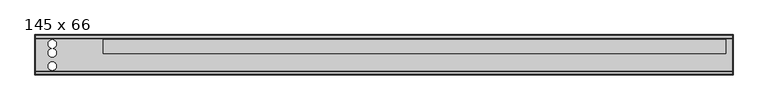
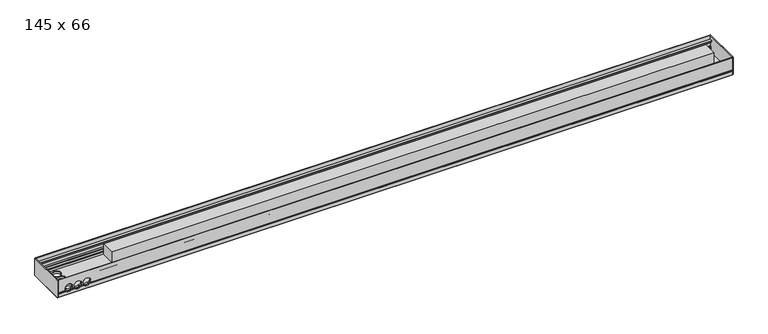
"""IFC4 building model written with IfcOpenShell, lengths in millimetres: proxy geometry, Mohlenhof_Внутрипольный конвектор_QSKM : 145 x 66."""

from ifc_helpers import new_model, si_unit, point, frame, frame_2d, origin, place, context, project, spatial, polyline, circle_curve, ellipse_curve, trimmed, segment, composite_curve, outline, extrude, source, transform, mapped, element, save
from ifc_brep_helpers import plane_surface, revolved_surface, advanced_brep


def proxy_145_x_66_30bb2a4e(model_context):
    return source(origin(), model_context, "Body", "SolidModel", [
        advanced_brep(
        [(1248.0, -245.0, -48.5473602), (1248.0, -243.5, -49.2468216), (1248.0, -242.5, -49.2468216), (1248.0, -242.5, -46.0008038), (1248.0, -240.0, -46.0008038), (1248.0, -240.0, -56.5008038), (1248.0, -242.5, -56.5008038), (1248.0, -242.5, -53.2468216), (1248.0, -243.5, -53.2468216), (1248.0, -245.0, -53.9462831), (1248.0, -245.0, -66.5), (1248.0, -241.0, -66.5), (1248.0, -241.0, -65.2), (1248.0, -243.0, -65.2), (1248.0, -243.0, -62.5), (1248.0, -232.0, -62.5), (1248.0, -232.0, -54.9172677), (1248.0, -233.4172677, -53.5), (1248.0, -237.0, -53.5), (1248.0, -237.0, -45.91), (1248.0, -239.0, -43.91), (1248.0, -239.0, -39.5), (1248.0, -240.0, -39.5), (1248.0, -240.0, -43.5), (1248.0, -242.4956439, -43.5), (1248.0, -242.4956439, -23.0), (1248.0, -240.0, -23.0), (1248.0, -240.0, -27.0), (1248.0, -239.0, -27.0), (1248.0, -239.0, -17.0), (1248.0, -233.3956439, -17.0), (1248.0, -233.3956439, -15.0), (1248.0, -243.4, -15.0), (1248.0, -243.4, 0.0), (1248.0, -245.0, 0.0), (-1248.0, -245.0, -48.5473602), (-1248.0, -245.0, 0.0), (-1248.0, -243.4, 0.0), (-1248.0, -243.4, -15.0), (-1248.0, -233.3956439, -15.0), (-1248.0, -233.3956439, -17.0), (-1248.0, -239.0, -17.0), (-1248.0, -239.0, -27.0), (-1248.0, -240.0, -27.0), (-1248.0, -240.0, -23.0), (-1248.0, -242.4956439, -23.0), (-1248.0, -242.4956439, -43.5), (-1248.0, -240.0, -43.5), (-1248.0, -240.0, -39.5), (-1248.0, -239.0, -39.5), (-1248.0, -239.0, -43.91), (-1248.0, -237.0, -45.91), (-1248.0, -237.0, -53.5), (-1248.0, -233.4172677, -53.5), (-1248.0, -232.0, -54.9172677), (-1248.0, -232.0, -62.5), (-1248.0, -243.0, -62.5), (-1248.0, -243.0, -65.2), (-1248.0, -241.0, -65.2), (-1248.0, -241.0, -66.5), (-1248.0, -245.0, -66.5), (-1248.0, -245.0, -53.9462831), (-1248.0, -243.5, -53.2468216), (-1248.0, -242.5, -53.2468216), (-1248.0, -242.5, -56.5008038), (-1248.0, -240.0, -56.5008038), (-1248.0, -240.0, -46.0008038), (-1248.0, -242.5, -46.0008038), (-1248.0, -242.5, -49.2468216), (-1248.0, -243.5, -49.2468216), (-1128.7585985, -245.0, -48.5473602), (-1129.155283, -243.5, -49.2468216), (-1220.844717, -243.5, -49.2468216), (-1221.2414015, -245.0, -48.5473602), (-1188.2414015, -245.0, -48.5473602), (-1194.7585985, -245.0, -48.5473602), (-1195.155283, -243.5, -49.2468216), (-1187.844717, -243.5, -49.2468216), (-1155.2414015, -245.0, -48.5473602), (-1161.7585985, -245.0, -48.5473602), (-1162.155283, -243.5, -49.2468216), (-1154.844717, -243.5, -49.2468216), (-1129.155283, -242.5, -49.2468216), (-1220.844717, -242.5, -49.2468216), (-1195.155283, -242.5, -49.2468216), (-1187.844717, -242.5, -49.2468216), (-1162.155283, -242.5, -49.2468216), (-1154.844717, -242.5, -49.2468216), (-1127.6911648, -242.5, -46.0008038), (-1222.3088352, -242.5, -46.0008038), (-1193.6911648, -242.5, -46.0008038), (-1189.3088352, -242.5, -46.0008038), (-1160.6911648, -242.5, -46.0008038), (-1156.3088352, -242.5, -46.0008038), (-1127.6911648, -240.0, -46.0008038), (-1222.3088352, -240.0, -46.0008038), (-1193.6911648, -240.0, -46.0008038), (-1189.3088352, -240.0, -46.0008038), (-1160.6911648, -240.0, -46.0008038), (-1156.3088352, -240.0, -46.0008038), (-1217.328032, -242.5, -53.2468216), (-1198.671968, -242.5, -53.2468216), (-1184.328032, -242.5, -53.2468216), (-1165.671968, -242.5, -53.2468216), (-1151.328032, -242.5, -53.2468216), (-1132.671968, -242.5, -53.2468216), (-1132.671968, -243.5, -53.2468216), (-1217.328032, -243.5, -53.2468216), (-1198.671968, -243.5, -53.2468216), (-1184.328032, -243.5, -53.2468216), (-1165.671968, -243.5, -53.2468216), (-1151.328032, -243.5, -53.2468216), (-1133.6280208, -245.0, -53.9462831), (-1216.3719792, -245.0, -53.9462831), (-1199.6280208, -245.0, -53.9462831), (-1183.3719792, -245.0, -53.9462831), (-1166.6280208, -245.0, -53.9462831), (-1150.3719792, -245.0, -53.9462831), (-1214.7064841, -232.0, -54.9172677), (-1201.2935159, -232.0, -54.9172677), (-1181.7064841, -232.0, -54.9172677), (-1168.2935159, -232.0, -54.9172677), (-1148.7064841, -232.0, -54.9172677), (-1135.2935159, -232.0, -54.9172677), (-1133.0, -233.4172677, -53.5), (-1217.0, -233.4172677, -53.5), (-1199.0, -233.4172677, -53.5), (-1184.0, -233.4172677, -53.5), (-1166.0, -233.4172677, -53.5), (-1151.0, -233.4172677, -53.5), (-1133.0, -237.0, -53.5), (-1217.0, -237.0, -53.5), (-1199.0, -237.0, -53.5), (-1184.0, -237.0, -53.5), (-1166.0, -237.0, -53.5), (-1151.0, -237.0, -53.5), (-1127.6629187, -237.0, -45.91), (-1222.3370813, -237.0, -45.91), (-1193.6629187, -237.0, -45.91), (-1189.3370813, -237.0, -45.91), (-1160.6629187, -237.0, -45.91), (-1156.3370813, -237.0, -45.91), (-1127.1948691, -239.0, -43.91), (-1222.8051309, -239.0, -43.91), (-1193.1948691, -239.0, -43.91), (-1189.8051309, -239.0, -43.91), (-1160.1948691, -239.0, -43.91), (-1156.8051309, -239.0, -43.91), (-1127.0, -239.0, -41.5), (-1127.1339313, -239.0, -39.5), (-1222.8660687, -239.0, -39.5), (-1223.0, -239.0, -41.5), (-1193.0, -239.0, -41.5), (-1193.1339313, -239.0, -39.5), (-1189.8660687, -239.0, -39.5), (-1190.0, -239.0, -41.5), (-1160.0, -239.0, -41.5), (-1160.1339313, -239.0, -39.5), (-1156.8660687, -239.0, -39.5), (-1157.0, -239.0, -41.5), (-1127.1339313, -240.0, -39.5), (-1222.8660687, -240.0, -39.5), (-1193.1339313, -240.0, -39.5), (-1189.8660687, -240.0, -39.5), (-1160.1339313, -240.0, -39.5), (-1156.8660687, -240.0, -39.5), (-1127.0, -240.0, -41.5), (-1127.1339313, -240.0, -43.5), (-1222.8660687, -240.0, -43.5), (-1223.0, -240.0, -41.5), (-1193.0, -240.0, -41.5), (-1193.1339313, -240.0, -43.5), (-1189.8660687, -240.0, -43.5), (-1190.0, -240.0, -41.5), (-1160.0, -240.0, -41.5), (-1160.1339313, -240.0, -43.5), (-1156.8660687, -240.0, -43.5), (-1157.0, -240.0, -41.5), (-1127.1339313, -242.4956439, -43.5), (-1222.8660687, -242.4956439, -43.5), (-1193.1339313, -242.4956439, -43.5), (-1189.8660687, -242.4956439, -43.5), (-1160.1339313, -242.4956439, -43.5), (-1156.8660687, -242.4956439, -43.5), (-1127.0, -242.4956439, -41.5), (-1157.0, -242.4956439, -41.5), (-1160.0, -242.4956439, -41.5), (-1190.0, -242.4956439, -41.5), (-1193.0, -242.4956439, -41.5), (-1223.0, -242.4956439, -41.5), (-1211.8405729, -240.0, -27.0), (-1204.1594271, -240.0, -27.0), (-1178.8405729, -240.0, -27.0), (-1171.1594271, -240.0, -27.0), (-1145.8405729, -240.0, -27.0), (-1138.1594271, -240.0, -27.0), (-1138.1594271, -239.0, -27.0), (-1211.8405729, -239.0, -27.0), (-1204.1594271, -239.0, -27.0), (-1178.8405729, -239.0, -27.0), (-1171.1594271, -239.0, -27.0), (-1145.8405729, -239.0, -27.0), (-1223.0, -245.0, -41.5), (-1193.0, -245.0, -41.5), (-1190.0, -245.0, -41.5), (-1160.0, -245.0, -41.5), (-1157.0, -245.0, -41.5), (-1127.0, -245.0, -41.5)],
        [
            (0, 1),
            (1, 2),
            (2, 3),
            (3, 4),
            (4, 5),
            (5, 6),
            (6, 7),
            (7, 8),
            (8, 9),
            (9, 10),
            (10, 11),
            (11, 12),
            (12, 13),
            (13, 14),
            (14, 15),
            (15, 16),
            (16, 17),
            (17, 18),
            (18, 19),
            (19, 20),
            (20, 21),
            (21, 22),
            (22, 23),
            (23, 24),
            (24, 25),
            (25, 26),
            (26, 27),
            (27, 28),
            (28, 29),
            (29, 30),
            (30, 31),
            (31, 32),
            (32, 33),
            (33, 34),
            (34, 0),
            (35, 36),
            (36, 37),
            (37, 38),
            (38, 39),
            (39, 40),
            (40, 41),
            (41, 42),
            (42, 43),
            (43, 44),
            (44, 45),
            (45, 46),
            (46, 47),
            (47, 48),
            (48, 49),
            (49, 50),
            (50, 51),
            (51, 52),
            (52, 53),
            (53, 54),
            (54, 55),
            (55, 56),
            (56, 57),
            (57, 58),
            (58, 59),
            (59, 60),
            (60, 61),
            (61, 62),
            (62, 63),
            (63, 64),
            (64, 65),
            (65, 66),
            (66, 67),
            (67, 68),
            (68, 69),
            (69, 35),
            (0, 70),
            (70, 71, ellipse_curve(frame((-1142.0, -260.1131126, -41.5), z_axis=(0.0, 0.42261826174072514, 0.9063077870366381), x_axis=(0.0, -0.9063077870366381, 0.42261826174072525)), 35.4930237, 15.0)),
            (71, 1),
            (69, 72),
            (72, 73, ellipse_curve(frame((-1208.0, -260.1131126, -41.5), z_axis=(0.0, 0.42261826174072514, 0.9063077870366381), x_axis=(0.0, -0.9063077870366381, 0.42261826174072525)), 35.4930237, 15.0)),
            (73, 35),
            (74, 75),
            (75, 76, ellipse_curve(frame((-1208.0, -260.1131126, -41.5), z_axis=(0.0, 0.42261826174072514, 0.9063077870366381), x_axis=(0.0, -0.9063077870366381, 0.42261826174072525)), 35.4930237, 15.0)),
            (76, 77),
            (77, 74, ellipse_curve(frame((-1175.0, -260.1131126, -41.5), z_axis=(0.0, 0.42261826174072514, 0.9063077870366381), x_axis=(0.0, -0.9063077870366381, 0.42261826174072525)), 35.4930237, 15.0)),
            (78, 79),
            (79, 80, ellipse_curve(frame((-1175.0, -260.1131126, -41.5), z_axis=(0.0, 0.42261826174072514, 0.9063077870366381), x_axis=(0.0, -0.9063077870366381, 0.42261826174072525)), 35.4930237, 15.0)),
            (80, 81),
            (81, 78, ellipse_curve(frame((-1142.0, -260.1131126, -41.5), z_axis=(0.0, 0.42261826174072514, 0.9063077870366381), x_axis=(0.0, -0.9063077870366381, 0.42261826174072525)), 35.4930237, 15.0)),
            (71, 82),
            (82, 2),
            (68, 83),
            (83, 72),
            (76, 84),
            (84, 85),
            (85, 77),
            (80, 86),
            (86, 87),
            (87, 81),
            (82, 88, circle_curve(frame((-1142.0, -242.5, -41.5), z_axis=(0.0, -1.0, 0.0), x_axis=(1.0, 0.0, 0.0)), 15.0)),
            (88, 3),
            (67, 89),
            (89, 83, circle_curve(frame((-1208.0, -242.5, -41.5), z_axis=(0.0, -1.0, 0.0), x_axis=(1.0, 0.0, 0.0)), 15.0)),
            (84, 90, circle_curve(frame((-1208.0, -242.5, -41.5), z_axis=(0.0, -1.0, 0.0), x_axis=(1.0, 0.0, 0.0)), 15.0)),
            (90, 91),
            (91, 85, circle_curve(frame((-1175.0, -242.5, -41.5), z_axis=(0.0, -1.0, 0.0), x_axis=(1.0, 0.0, 0.0)), 15.0)),
            (86, 92, circle_curve(frame((-1175.0, -242.5, -41.5), z_axis=(0.0, -1.0, 0.0), x_axis=(1.0, 0.0, 0.0)), 15.0)),
            (92, 93),
            (93, 87, circle_curve(frame((-1142.0, -242.5, -41.5), z_axis=(0.0, -1.0, 0.0), x_axis=(1.0, 0.0, 0.0)), 15.0)),
            (88, 94),
            (94, 4),
            (66, 95),
            (95, 89),
            (90, 96),
            (96, 97),
            (97, 91),
            (92, 98),
            (98, 99),
            (99, 93),
            (94, 99, circle_curve(frame((-1142.0, -240.0, -41.5), z_axis=(0.0, 1.0, 0.0), x_axis=(1.0, 0.0, 0.0)), 15.0)),
            (98, 97, circle_curve(frame((-1175.0, -240.0, -41.5), z_axis=(0.0, 1.0, 0.0), x_axis=(1.0, 0.0, 0.0)), 15.0)),
            (96, 95, circle_curve(frame((-1208.0, -240.0, -41.5), z_axis=(0.0, 1.0, 0.0), x_axis=(1.0, 0.0, 0.0)), 15.0)),
            (65, 5),
            (64, 6),
            (63, 100),
            (100, 101, circle_curve(frame((-1208.0, -242.5, -41.5), z_axis=(0.0, -1.0, 0.0), x_axis=(1.0, 0.0, 0.0)), 15.0)),
            (101, 102),
            (102, 103, circle_curve(frame((-1175.0, -242.5, -41.5), z_axis=(0.0, -1.0, 0.0), x_axis=(1.0, 0.0, 0.0)), 15.0)),
            (103, 104),
            (104, 105, circle_curve(frame((-1142.0, -242.5, -41.5), z_axis=(0.0, -1.0, 0.0), x_axis=(1.0, 0.0, 0.0)), 15.0)),
            (105, 7),
            (105, 106),
            (106, 8),
            (62, 107),
            (107, 100),
            (101, 108),
            (108, 109),
            (109, 102),
            (103, 110),
            (110, 111),
            (111, 104),
            (106, 112, ellipse_curve(frame((-1142.0, -218.3088597, -41.5), z_axis=(0.0, 0.42261826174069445, -0.9063077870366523), x_axis=(0.0, -0.9063077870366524, -0.42261826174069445)), 35.4930237, 15.0)),
            (112, 9),
            (61, 113),
            (113, 107, ellipse_curve(frame((-1208.0, -218.3088597, -41.5), z_axis=(0.0, 0.42261826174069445, -0.9063077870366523), x_axis=(0.0, -0.9063077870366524, -0.42261826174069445)), 35.4930237, 15.0)),
            (108, 114, ellipse_curve(frame((-1208.0, -218.3088597, -41.5), z_axis=(0.0, 0.42261826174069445, -0.9063077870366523), x_axis=(0.0, -0.9063077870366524, -0.42261826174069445)), 35.4930237, 15.0)),
            (114, 115),
            (115, 109, ellipse_curve(frame((-1175.0, -218.3088597, -41.5), z_axis=(0.0, 0.42261826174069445, -0.9063077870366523), x_axis=(0.0, -0.9063077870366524, -0.42261826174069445)), 35.4930237, 15.0)),
            (110, 116, ellipse_curve(frame((-1175.0, -218.3088597, -41.5), z_axis=(0.0, 0.42261826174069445, -0.9063077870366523), x_axis=(0.0, -0.9063077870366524, -0.42261826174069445)), 35.4930237, 15.0)),
            (116, 117),
            (117, 111, ellipse_curve(frame((-1142.0, -218.3088597, -41.5), z_axis=(0.0, 0.42261826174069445, -0.9063077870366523), x_axis=(0.0, -0.9063077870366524, -0.42261826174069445)), 35.4930237, 15.0)),
            (112, 117, circle_curve(frame((-1142.0, -245.0, -41.5), z_axis=(0.0, 1.0, 0.0), x_axis=(1.0, 0.0, 0.0)), 15.0)),
            (116, 115, circle_curve(frame((-1175.0, -245.0, -41.5), z_axis=(0.0, 1.0, 0.0), x_axis=(1.0, 0.0, 0.0)), 15.0)),
            (114, 113, circle_curve(frame((-1208.0, -245.0, -41.5), z_axis=(0.0, 1.0, 0.0), x_axis=(1.0, 0.0, 0.0)), 15.0)),
            (60, 10),
            (59, 11),
            (58, 12),
            (57, 13),
            (56, 14),
            (55, 15),
            (54, 118),
            (118, 119, circle_curve(frame((-1208.0, -232.0, -41.5), z_axis=(0.0, -1.0, 0.0), x_axis=(1.0, 0.0, 0.0)), 15.0)),
            (119, 120),
            (120, 121, circle_curve(frame((-1175.0, -232.0, -41.5), z_axis=(0.0, -1.0, 0.0), x_axis=(1.0, 0.0, 0.0)), 15.0)),
            (121, 122),
            (122, 123, circle_curve(frame((-1142.0, -232.0, -41.5), z_axis=(0.0, -1.0, 0.0), x_axis=(1.0, 0.0, 0.0)), 15.0)),
            (123, 16),
            (123, 124, ellipse_curve(frame((-1142.0, -245.4172677, -41.5), z_axis=(0.0, -0.7071067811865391, -0.707106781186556), x_axis=(0.0, -0.7071067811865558, 0.7071067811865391)), 21.2132034, 15.0)),
            (124, 17),
            (53, 125),
            (125, 118, ellipse_curve(frame((-1208.0, -245.4172677, -41.5), z_axis=(0.0, -0.7071067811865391, -0.707106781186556), x_axis=(0.0, -0.7071067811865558, 0.7071067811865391)), 21.2132034, 15.0)),
            (119, 126, ellipse_curve(frame((-1208.0, -245.4172677, -41.5), z_axis=(0.0, -0.7071067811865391, -0.707106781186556), x_axis=(0.0, -0.7071067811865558, 0.7071067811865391)), 21.2132034, 15.0)),
            (126, 127),
            (127, 120, ellipse_curve(frame((-1175.0, -245.4172677, -41.5), z_axis=(0.0, -0.7071067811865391, -0.707106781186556), x_axis=(0.0, -0.7071067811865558, 0.7071067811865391)), 21.2132034, 15.0)),
            (121, 128, ellipse_curve(frame((-1175.0, -245.4172677, -41.5), z_axis=(0.0, -0.7071067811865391, -0.707106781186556), x_axis=(0.0, -0.7071067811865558, 0.7071067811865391)), 21.2132034, 15.0)),
            (128, 129),
            (129, 122, ellipse_curve(frame((-1142.0, -245.4172677, -41.5), z_axis=(0.0, -0.7071067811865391, -0.707106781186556), x_axis=(0.0, -0.7071067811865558, 0.7071067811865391)), 21.2132034, 15.0)),
            (124, 130),
            (130, 18),
            (52, 131),
            (131, 125),
            (126, 132),
            (132, 133),
            (133, 127),
            (128, 134),
            (134, 135),
            (135, 129),
            (130, 136, circle_curve(frame((-1142.0, -237.0, -41.5), z_axis=(0.0, -1.0, 0.0), x_axis=(1.0, 0.0, 0.0)), 15.0)),
            (136, 19),
            (51, 137),
            (137, 131, circle_curve(frame((-1208.0, -237.0, -41.5), z_axis=(0.0, -1.0, 0.0), x_axis=(1.0, 0.0, 0.0)), 15.0)),
            (132, 138, circle_curve(frame((-1208.0, -237.0, -41.5), z_axis=(0.0, -1.0, 0.0), x_axis=(1.0, 0.0, 0.0)), 15.0)),
            (138, 139),
            (139, 133, circle_curve(frame((-1175.0, -237.0, -41.5), z_axis=(0.0, -1.0, 0.0), x_axis=(1.0, 0.0, 0.0)), 15.0)),
            (134, 140, circle_curve(frame((-1175.0, -237.0, -41.5), z_axis=(0.0, -1.0, 0.0), x_axis=(1.0, 0.0, 0.0)), 15.0)),
            (140, 141),
            (141, 135, circle_curve(frame((-1142.0, -237.0, -41.5), z_axis=(0.0, -1.0, 0.0), x_axis=(1.0, 0.0, 0.0)), 15.0)),
            (136, 142, ellipse_curve(frame((-1142.0, -241.41, -41.5), z_axis=(0.0, -0.7071067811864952, -0.7071067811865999), x_axis=(0.0, -0.7071067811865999, 0.7071067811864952)), 21.2132034, 15.0)),
            (142, 20),
            (50, 143),
            (143, 137, ellipse_curve(frame((-1208.0, -241.41, -41.5), z_axis=(0.0, -0.7071067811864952, -0.7071067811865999), x_axis=(0.0, -0.7071067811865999, 0.7071067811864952)), 21.2132034, 15.0)),
            (138, 144, ellipse_curve(frame((-1208.0, -241.41, -41.5), z_axis=(0.0, -0.7071067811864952, -0.7071067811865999), x_axis=(0.0, -0.7071067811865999, 0.7071067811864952)), 21.2132034, 15.0)),
            (144, 145),
            (145, 139, ellipse_curve(frame((-1175.0, -241.41, -41.5), z_axis=(0.0, -0.7071067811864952, -0.7071067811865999), x_axis=(0.0, -0.7071067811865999, 0.7071067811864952)), 21.2132034, 15.0)),
            (140, 146, ellipse_curve(frame((-1175.0, -241.41, -41.5), z_axis=(0.0, -0.7071067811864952, -0.7071067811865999), x_axis=(0.0, -0.7071067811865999, 0.7071067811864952)), 21.2132034, 15.0)),
            (146, 147),
            (147, 141, ellipse_curve(frame((-1142.0, -241.41, -41.5), z_axis=(0.0, -0.7071067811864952, -0.7071067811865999), x_axis=(0.0, -0.7071067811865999, 0.7071067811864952)), 21.2132034, 15.0)),
            (142, 148, circle_curve(frame((-1142.0, -239.0, -41.5), z_axis=(0.0, -1.0, 0.0), x_axis=(1.0, 0.0, 0.0)), 15.0)),
            (148, 149, circle_curve(frame((-1142.0, -239.0, -41.5), z_axis=(0.0, -1.0, 0.0), x_axis=(1.0, 0.0, 0.0)), 15.0)),
            (149, 21),
            (49, 150),
            (150, 151, circle_curve(frame((-1208.0, -239.0, -41.5), z_axis=(0.0, -1.0, 0.0), x_axis=(1.0, 0.0, 0.0)), 15.0)),
            (151, 143, circle_curve(frame((-1208.0, -239.0, -41.5), z_axis=(0.0, -1.0, 0.0), x_axis=(1.0, 0.0, 0.0)), 15.0)),
            (144, 152, circle_curve(frame((-1208.0, -239.0, -41.5), z_axis=(0.0, -1.0, 0.0), x_axis=(1.0, 0.0, 0.0)), 15.0)),
            (152, 153, circle_curve(frame((-1208.0, -239.0, -41.5), z_axis=(0.0, -1.0, 0.0), x_axis=(1.0, 0.0, 0.0)), 15.0)),
            (153, 154),
            (154, 155, circle_curve(frame((-1175.0, -239.0, -41.5), z_axis=(0.0, -1.0, 0.0), x_axis=(1.0, 0.0, 0.0)), 15.0)),
            (155, 145, circle_curve(frame((-1175.0, -239.0, -41.5), z_axis=(0.0, -1.0, 0.0), x_axis=(1.0, 0.0, 0.0)), 15.0)),
            (146, 156, circle_curve(frame((-1175.0, -239.0, -41.5), z_axis=(0.0, -1.0, 0.0), x_axis=(1.0, 0.0, 0.0)), 15.0)),
            (156, 157, circle_curve(frame((-1175.0, -239.0, -41.5), z_axis=(0.0, -1.0, 0.0), x_axis=(1.0, 0.0, 0.0)), 15.0)),
            (157, 158),
            (158, 159, circle_curve(frame((-1142.0, -239.0, -41.5), z_axis=(0.0, -1.0, 0.0), x_axis=(1.0, 0.0, 0.0)), 15.0)),
            (159, 147, circle_curve(frame((-1142.0, -239.0, -41.5), z_axis=(0.0, -1.0, 0.0), x_axis=(1.0, 0.0, 0.0)), 15.0)),
            (149, 160),
            (160, 22),
            (48, 161),
            (161, 150),
            (153, 162),
            (162, 163),
            (163, 154),
            (157, 164),
            (164, 165),
            (165, 158),
            (160, 166, circle_curve(frame((-1142.0, -240.0, -41.5), z_axis=(0.0, 1.0, 0.0), x_axis=(1.0, 0.0, 0.0)), 15.0)),
            (166, 167, circle_curve(frame((-1142.0, -240.0, -41.5), z_axis=(0.0, 1.0, 0.0), x_axis=(1.0, 0.0, 0.0)), 15.0)),
            (167, 23),
            (47, 168),
            (168, 169, circle_curve(frame((-1208.0, -240.0, -41.5), z_axis=(0.0, 1.0, 0.0), x_axis=(1.0, 0.0, 0.0)), 15.0)),
            (169, 161, circle_curve(frame((-1208.0, -240.0, -41.5), z_axis=(0.0, 1.0, 0.0), x_axis=(1.0, 0.0, 0.0)), 15.0)),
            (162, 170, circle_curve(frame((-1208.0, -240.0, -41.5), z_axis=(0.0, 1.0, 0.0), x_axis=(1.0, 0.0, 0.0)), 15.0)),
            (170, 171, circle_curve(frame((-1208.0, -240.0, -41.5), z_axis=(0.0, 1.0, 0.0), x_axis=(1.0, 0.0, 0.0)), 15.0)),
            (171, 172),
            (172, 173, circle_curve(frame((-1175.0, -240.0, -41.5), z_axis=(0.0, 1.0, 0.0), x_axis=(1.0, 0.0, 0.0)), 15.0)),
            (173, 163, circle_curve(frame((-1175.0, -240.0, -41.5), z_axis=(0.0, 1.0, 0.0), x_axis=(1.0, 0.0, 0.0)), 15.0)),
            (164, 174, circle_curve(frame((-1175.0, -240.0, -41.5), z_axis=(0.0, 1.0, 0.0), x_axis=(1.0, 0.0, 0.0)), 15.0)),
            (174, 175, circle_curve(frame((-1175.0, -240.0, -41.5), z_axis=(0.0, 1.0, 0.0), x_axis=(1.0, 0.0, 0.0)), 15.0)),
            (175, 176),
            (176, 177, circle_curve(frame((-1142.0, -240.0, -41.5), z_axis=(0.0, 1.0, 0.0), x_axis=(1.0, 0.0, 0.0)), 15.0)),
            (177, 165, circle_curve(frame((-1142.0, -240.0, -41.5), z_axis=(0.0, 1.0, 0.0), x_axis=(1.0, 0.0, 0.0)), 15.0)),
            (167, 178),
            (178, 24),
            (46, 179),
            (179, 168),
            (171, 180),
            (180, 181),
            (181, 172),
            (175, 182),
            (182, 183),
            (183, 176),
            (178, 184, circle_curve(frame((-1142.0, -242.4956439, -41.5), z_axis=(0.0, -1.0, 0.0), x_axis=(1.0, 0.0, 0.0)), 15.0)),
            (184, 185, circle_curve(frame((-1142.0, -242.4956439, -41.5), z_axis=(0.0, -1.0, 0.0), x_axis=(1.0, 0.0, 0.0)), 15.0)),
            (185, 183, circle_curve(frame((-1142.0, -242.4956439, -41.5), z_axis=(0.0, -1.0, 0.0), x_axis=(1.0, 0.0, 0.0)), 15.0)),
            (182, 186, circle_curve(frame((-1175.0, -242.4956439, -41.5), z_axis=(0.0, -1.0, 0.0), x_axis=(1.0, 0.0, 0.0)), 15.0)),
            (186, 187, circle_curve(frame((-1175.0, -242.4956439, -41.5), z_axis=(0.0, -1.0, 0.0), x_axis=(1.0, 0.0, 0.0)), 15.0)),
            (187, 181, circle_curve(frame((-1175.0, -242.4956439, -41.5), z_axis=(0.0, -1.0, 0.0), x_axis=(1.0, 0.0, 0.0)), 15.0)),
            (180, 188, circle_curve(frame((-1208.0, -242.4956439, -41.5), z_axis=(0.0, -1.0, 0.0), x_axis=(1.0, 0.0, 0.0)), 15.0)),
            (188, 189, circle_curve(frame((-1208.0, -242.4956439, -41.5), z_axis=(0.0, -1.0, 0.0), x_axis=(1.0, 0.0, 0.0)), 15.0)),
            (189, 179, circle_curve(frame((-1208.0, -242.4956439, -41.5), z_axis=(0.0, -1.0, 0.0), x_axis=(1.0, 0.0, 0.0)), 15.0)),
            (45, 25),
            (44, 26),
            (43, 190),
            (190, 191, circle_curve(frame((-1208.0, -240.0, -41.5), z_axis=(0.0, 1.0, 0.0), x_axis=(1.0, 0.0, 0.0)), 15.0)),
            (191, 192),
            (192, 193, circle_curve(frame((-1175.0, -240.0, -41.5), z_axis=(0.0, 1.0, 0.0), x_axis=(1.0, 0.0, 0.0)), 15.0)),
            (193, 194),
            (194, 195, circle_curve(frame((-1142.0, -240.0, -41.5), z_axis=(0.0, 1.0, 0.0), x_axis=(1.0, 0.0, 0.0)), 15.0)),
            (195, 27),
            (195, 196),
            (196, 28),
            (42, 197),
            (197, 190),
            (191, 198),
            (198, 199),
            (199, 192),
            (193, 200),
            (200, 201),
            (201, 194),
            (196, 201, circle_curve(frame((-1142.0, -239.0, -41.5), z_axis=(0.0, -1.0, 0.0), x_axis=(1.0, 0.0, 0.0)), 15.0)),
            (200, 199, circle_curve(frame((-1175.0, -239.0, -41.5), z_axis=(0.0, -1.0, 0.0), x_axis=(1.0, 0.0, 0.0)), 15.0)),
            (198, 197, circle_curve(frame((-1208.0, -239.0, -41.5), z_axis=(0.0, -1.0, 0.0), x_axis=(1.0, 0.0, 0.0)), 15.0)),
            (41, 29),
            (40, 30),
            (39, 31),
            (38, 32),
            (37, 33),
            (36, 34),
            (73, 202, circle_curve(frame((-1208.0, -245.0, -41.5), z_axis=(0.0, 1.0, 0.0), x_axis=(1.0, 0.0, 0.0)), 15.0)),
            (202, 203, circle_curve(frame((-1208.0, -245.0, -41.5), z_axis=(0.0, 1.0, 0.0), x_axis=(1.0, 0.0, 0.0)), 15.0)),
            (203, 75, circle_curve(frame((-1208.0, -245.0, -41.5), z_axis=(0.0, 1.0, 0.0), x_axis=(1.0, 0.0, 0.0)), 15.0)),
            (74, 204, circle_curve(frame((-1175.0, -245.0, -41.5), z_axis=(0.0, 1.0, 0.0), x_axis=(1.0, 0.0, 0.0)), 15.0)),
            (204, 205, circle_curve(frame((-1175.0, -245.0, -41.5), z_axis=(0.0, 1.0, 0.0), x_axis=(1.0, 0.0, 0.0)), 15.0)),
            (205, 79, circle_curve(frame((-1175.0, -245.0, -41.5), z_axis=(0.0, 1.0, 0.0), x_axis=(1.0, 0.0, 0.0)), 15.0)),
            (78, 206, circle_curve(frame((-1142.0, -245.0, -41.5), z_axis=(0.0, 1.0, 0.0), x_axis=(1.0, 0.0, 0.0)), 15.0)),
            (206, 207, circle_curve(frame((-1142.0, -245.0, -41.5), z_axis=(0.0, 1.0, 0.0), x_axis=(1.0, 0.0, 0.0)), 15.0)),
            (207, 70, circle_curve(frame((-1142.0, -245.0, -41.5), z_axis=(0.0, 1.0, 0.0), x_axis=(1.0, 0.0, 0.0)), 15.0)),
            (151, 169),
            (189, 202),
            (203, 188),
            (170, 152),
            (155, 173),
            (187, 204),
            (205, 186),
            (174, 156),
            (159, 177),
            (185, 206),
            (207, 184),
            (166, 148),
        ],
        [
            plane_surface(frame((1248.0, -243.0, -62.5), z_axis=(1.0, 0.0, 0.0), x_axis=(0.0, 0.0, 1.0))),
            plane_surface(frame((-1248.0, -243.0, -62.5), z_axis=(-1.0, 0.0, 0.0), x_axis=(0.0, 0.0, 1.0))),
            plane_surface(frame((1248.0, -245.0, -48.5473602), z_axis=(0.0, -0.42261826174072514, -0.9063077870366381), x_axis=(-1.0, 0.0, 0.0))),
            plane_surface(frame((1248.0, -243.5, -49.2468216), z_axis=(0.0, 0.0, -1.0), x_axis=(-1.0, 0.0, 0.0))),
            plane_surface(frame((1248.0, -242.5, -49.2468216), z_axis=(0.0, 1.0, 0.0), x_axis=(-1.0, 0.0, 0.0))),
            plane_surface(frame((1248.0, -242.5, -46.0008038), z_axis=(0.0, 0.0, -1.0), x_axis=(-1.0, 0.0, 0.0))),
            plane_surface(frame((1248.0, -240.0, -46.0008038), z_axis=(0.0, -1.0, 0.0), x_axis=(-1.0, 0.0, 0.0))),
            plane_surface(frame((1248.0, -240.0, -56.5008038), z_axis=(0.0, 0.0, 1.0), x_axis=(-1.0, 0.0, 0.0))),
            plane_surface(frame((1248.0, -242.5, -56.5008038), z_axis=(0.0, 1.0, 0.0), x_axis=(-1.0, 0.0, 0.0))),
            plane_surface(frame((1248.0, -242.5, -53.2468216), z_axis=(0.0, 0.0, 1.0), x_axis=(-1.0, 0.0, 0.0))),
            plane_surface(frame((1248.0, -243.5, -53.2468216), z_axis=(0.0, -0.42261826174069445, 0.9063077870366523), x_axis=(-1.0, 0.0, 0.0))),
            plane_surface(frame((1248.0, -245.0, -53.9462831), z_axis=(0.0, -1.0, 0.0), x_axis=(-1.0, 0.0, 0.0))),
            plane_surface(frame((1248.0, -245.0, -66.5), z_axis=(0.0, 0.0, -1.0), x_axis=(-1.0, 0.0, 0.0))),
            plane_surface(frame((1248.0, -241.0, -66.5), z_axis=(0.0, 1.0, 0.0), x_axis=(-1.0, 0.0, 0.0))),
            plane_surface(frame((1248.0, -241.0, -65.2), z_axis=(0.0, 0.0, 1.0), x_axis=(-1.0, 0.0, 0.0))),
            plane_surface(frame((1248.0, -243.0, -65.2), z_axis=(0.0, 1.0, 0.0), x_axis=(-1.0, 0.0, 0.0))),
            plane_surface(frame((1248.0, -243.0, -62.5), z_axis=(0.0, 0.0, -1.0), x_axis=(-1.0, 0.0, 0.0))),
            plane_surface(frame((1248.0, -232.0, -62.5), z_axis=(0.0, 1.0, 0.0), x_axis=(-1.0, 0.0, 0.0))),
            plane_surface(frame((1248.0, -232.0, -54.9172677), z_axis=(0.0, 0.7071067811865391, 0.707106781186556), x_axis=(-1.0, 0.0, 0.0))),
            plane_surface(frame((1248.0, -233.4172677, -53.5), z_axis=(0.0, 0.0, 1.0), x_axis=(-1.0, 0.0, 0.0))),
            plane_surface(frame((1248.0, -237.0, -53.5), z_axis=(0.0, 1.0, 0.0), x_axis=(-1.0, 0.0, 0.0))),
            plane_surface(frame((1248.0, -237.0, -45.91), z_axis=(0.0, 0.7071067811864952, 0.7071067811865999), x_axis=(-1.0, 0.0, 0.0))),
            plane_surface(frame((1248.0, -239.0, -43.91), z_axis=(0.0, 1.0, 0.0), x_axis=(-1.0, 0.0, 0.0))),
            plane_surface(frame((1248.0, -239.0, -39.5), z_axis=(0.0, 0.0, 1.0), x_axis=(-1.0, 0.0, 0.0))),
            plane_surface(frame((1248.0, -240.0, -39.5), z_axis=(0.0, -1.0, 0.0), x_axis=(-1.0, 0.0, 0.0))),
            plane_surface(frame((1248.0, -240.0, -43.5), z_axis=(0.0, 0.0, 1.0), x_axis=(-1.0, 0.0, 0.0))),
            plane_surface(frame((1248.0, -242.4956439, -43.5), z_axis=(0.0, 1.0, 0.0), x_axis=(-1.0, 0.0, 0.0))),
            plane_surface(frame((1248.0, -242.4956439, -23.0), z_axis=(0.0, 0.0, -1.0), x_axis=(-1.0, 0.0, 0.0))),
            plane_surface(frame((1248.0, -240.0, -23.0), z_axis=(0.0, -1.0, 0.0), x_axis=(-1.0, 0.0, 0.0))),
            plane_surface(frame((1248.0, -240.0, -27.0), z_axis=(0.0, 0.0, -1.0), x_axis=(-1.0, 0.0, 0.0))),
            plane_surface(frame((1248.0, -239.0, -27.0), z_axis=(0.0, 1.0, 0.0), x_axis=(-1.0, 0.0, 0.0))),
            plane_surface(frame((1248.0, -239.0, -17.0), z_axis=(0.0, 0.0, -1.0), x_axis=(-1.0, 0.0, 0.0))),
            plane_surface(frame((1248.0, -233.3956439, -17.0), z_axis=(0.0, 1.0, 0.0), x_axis=(-1.0, 0.0, 0.0))),
            plane_surface(frame((1248.0, -233.3956439, -15.0), z_axis=(0.0, 0.0, 1.0), x_axis=(-1.0, 0.0, 0.0))),
            plane_surface(frame((1248.0, -243.4, -15.0), z_axis=(0.0, 1.0, 0.0), x_axis=(-1.0, 0.0, 0.0))),
            plane_surface(frame((1248.0, -243.4, 0.0), z_axis=(0.0, 0.0, 1.0), x_axis=(-1.0, 0.0, 0.0))),
            plane_surface(frame((1248.0, -245.0, 0.0), z_axis=(0.0, -1.0, 0.0), x_axis=(-1.0, 0.0, 0.0))),
            revolved_surface(polyline([(-1193.0, -250.47646346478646, -41.5), (-1193.0, -186.14125593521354, -41.5)]), (-1208.0, -213.0, -41.5), (0.0, -1.0, 0.0)),
            revolved_surface(polyline([(-1193.0, -292.280716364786, -41.5), (-1193.0, -226.41000002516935, -41.5)]), (-1208.0, -213.0, -41.5), (0.0, -1.0, 0.0)),
            revolved_surface(polyline([(-1193.0, -240.0, -41.5), (-1193.0, -239.0, -41.5)]), (-1208.0, -213.0, -41.5), (0.0, -1.0, 0.0)),
            revolved_surface(polyline([(-1193.0, -245.0, -41.5), (-1193.0, -242.4956439, -41.5)]), (-1208.0, -213.0, -41.5), (0.0, -1.0, 0.0)),
            revolved_surface(polyline([(-1160.0, -250.47646346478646, -41.5), (-1160.0, -186.14125593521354, -41.5)]), (-1175.0, 0.0, -41.5), (0.0, -1.0, 0.0)),
            revolved_surface(polyline([(-1160.0, -292.280716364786, -41.5), (-1160.0, -226.41000002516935, -41.5)]), (-1175.0, 0.0, -41.5), (0.0, -1.0, 0.0)),
            revolved_surface(polyline([(-1160.0, -240.0, -41.5), (-1160.0, -239.0, -41.5)]), (-1175.0, 0.0, -41.5), (0.0, -1.0, 0.0)),
            revolved_surface(polyline([(-1160.0, -245.0, -41.5), (-1160.0, -242.4956439, -41.5)]), (-1175.0, 0.0, -41.5), (0.0, -1.0, 0.0)),
            revolved_surface(polyline([(-1127.0, -250.47646346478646, -41.5), (-1127.0, -186.14125593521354, -41.5)]), (-1142.0, 0.0, -41.5), (0.0, -1.0, 0.0)),
            revolved_surface(polyline([(-1127.0, -292.280716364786, -41.5), (-1127.0, -226.41000002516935, -41.5)]), (-1142.0, 0.0, -41.5), (0.0, -1.0, 0.0)),
            revolved_surface(polyline([(-1127.0, -240.0, -41.5), (-1127.0, -239.0, -41.5)]), (-1142.0, 0.0, -41.5), (0.0, -1.0, 0.0)),
            revolved_surface(polyline([(-1127.0, -245.0, -41.5), (-1127.0, -242.4956439, -41.5)]), (-1142.0, 0.0, -41.5), (0.0, -1.0, 0.0)),
        ],
        [
            (0, [[1, 2, 3, 4, 5, 6, 7, 8, 9, 10, 11, 12, 13, 14, 15, 16, 17, 18, 19, 20, 21, 22, 23, 24, 25, 26, 27, 28, 29, 30, 31, 32, 33, 34, 35]]),
            (1, [[36, 37, 38, 39, 40, 41, 42, 43, 44, 45, 46, 47, 48, 49, 50, 51, 52, 53, 54, 55, 56, 57, 58, 59, 60, 61, 62, 63, 64, 65, 66, 67, 68, 69, 70]]),
            (2, [[-1, 71, 72, 73]]),
            (2, [[-70, 74, 75, 76]]),
            (2, [[77, 78, 79, 80]]),
            (2, [[81, 82, 83, 84]]),
            (3, [[-2, -73, 85, 86]]),
            (3, [[-69, 87, 88, -74]]),
            (3, [[-79, 89, 90, 91]]),
            (3, [[-83, 92, 93, 94]]),
            (4, [[-3, -86, 95, 96]]),
            (4, [[-68, 97, 98, -87]]),
            (4, [[-90, 99, 100, 101]]),
            (4, [[-93, 102, 103, 104]]),
            (5, [[-4, -96, 105, 106]]),
            (5, [[-67, 107, 108, -97]]),
            (5, [[-100, 109, 110, 111]]),
            (5, [[-103, 112, 113, 114]]),
            (6, [[-5, -106, 115, -113, 116, -110, 117, -107, -66, 118]]),
            (7, [[-6, -118, -65, 119]]),
            (8, [[-7, -119, -64, 120, 121, 122, 123, 124, 125, 126]]),
            (9, [[-8, -126, 127, 128]]),
            (9, [[-63, 129, 130, -120]]),
            (9, [[-122, 131, 132, 133]]),
            (9, [[-124, 134, 135, 136]]),
            (10, [[-9, -128, 137, 138]]),
            (10, [[-62, 139, 140, -129]]),
            (10, [[-132, 141, 142, 143]]),
            (10, [[-135, 144, 145, 146]]),
            (11, [[-10, -138, 147, -145, 148, -142, 149, -139, -61, 150]]),
            (12, [[-11, -150, -60, 151]]),
            (13, [[-12, -151, -59, 152]]),
            (14, [[-13, -152, -58, 153]]),
            (15, [[-14, -153, -57, 154]]),
            (16, [[-15, -154, -56, 155]]),
            (17, [[-16, -155, -55, 156, 157, 158, 159, 160, 161, 162]]),
            (18, [[-17, -162, 163, 164]]),
            (18, [[-54, 165, 166, -156]]),
            (18, [[-158, 167, 168, 169]]),
            (18, [[-160, 170, 171, 172]]),
            (19, [[-18, -164, 173, 174]]),
            (19, [[-53, 175, 176, -165]]),
            (19, [[-168, 177, 178, 179]]),
            (19, [[-171, 180, 181, 182]]),
            (20, [[-19, -174, 183, 184]]),
            (20, [[-52, 185, 186, -175]]),
            (20, [[-178, 187, 188, 189]]),
            (20, [[-181, 190, 191, 192]]),
            (21, [[-20, -184, 193, 194]]),
            (21, [[-51, 195, 196, -185]]),
            (21, [[-188, 197, 198, 199]]),
            (21, [[-191, 200, 201, 202]]),
            (22, [[-21, -194, 203, 204, 205]]),
            (22, [[-50, 206, 207, 208, -195]]),
            (22, [[-198, 209, 210, 211, 212, 213]]),
            (22, [[-201, 214, 215, 216, 217, 218]]),
            (23, [[-22, -205, 219, 220]]),
            (23, [[-49, 221, 222, -206]]),
            (23, [[-211, 223, 224, 225]]),
            (23, [[-216, 226, 227, 228]]),
            (24, [[-23, -220, 229, 230, 231]]),
            (24, [[-48, 232, 233, 234, -221]]),
            (24, [[-224, 235, 236, 237, 238, 239]]),
            (24, [[-227, 240, 241, 242, 243, 244]]),
            (25, [[-24, -231, 245, 246]]),
            (25, [[-47, 247, 248, -232]]),
            (25, [[-237, 249, 250, 251]]),
            (25, [[-242, 252, 253, 254]]),
            (26, [[-25, -246, 255, 256, 257, -253, 258, 259, 260, -250, 261, 262, 263, -247, -46, 264]]),
            (27, [[-26, -264, -45, 265]]),
            (28, [[-27, -265, -44, 266, 267, 268, 269, 270, 271, 272]]),
            (29, [[-28, -272, 273, 274]]),
            (29, [[-43, 275, 276, -266]]),
            (29, [[-268, 277, 278, 279]]),
            (29, [[-270, 280, 281, 282]]),
            (30, [[-29, -274, 283, -281, 284, -278, 285, -275, -42, 286]]),
            (31, [[-30, -286, -41, 287]]),
            (32, [[-31, -287, -40, 288]]),
            (33, [[-32, -288, -39, 289]]),
            (34, [[-33, -289, -38, 290]]),
            (35, [[-34, -290, -37, 291]]),
            (36, [[-35, -291, -36, -76, 292, 293, 294, -77, 295, 296, 297, -81, 298, 299, 300, -71]]),
            (37, [[-121, -130, -140, -149, -141, -131]]),
            (38, [[301, -233, -248, -263, 302, -292, -75, -88, -98, -108, -117, -109, -99, -89, -78, -294, 303, -261, -249, -236, 304, -209, -197, -187, -177, -167, -157, -166, -176, -186, -196, -208]]),
            (39, [[-267, -276, -285, -277]]),
            (39, [[-301, -207, -222, -234]]),
            (40, [[-302, -262, -303, -293]]),
            (39, [[-304, -235, -223, -210]]),
            (41, [[-123, -133, -143, -148, -144, -134]]),
            (42, [[305, -238, -251, -260, 306, -295, -80, -91, -101, -111, -116, -112, -102, -92, -82, -297, 307, -258, -252, -241, 308, -214, -200, -190, -180, -170, -159, -169, -179, -189, -199, -213]]),
            (43, [[-269, -279, -284, -280]]),
            (43, [[-305, -212, -225, -239]]),
            (44, [[-306, -259, -307, -296]]),
            (43, [[-308, -240, -226, -215]]),
            (45, [[-125, -136, -146, -147, -137, -127]]),
            (46, [[309, -243, -254, -257, 310, -298, -84, -94, -104, -114, -115, -105, -95, -85, -72, -300, 311, -255, -245, -230, 312, -203, -193, -183, -173, -163, -161, -172, -182, -192, -202, -218]]),
            (47, [[-271, -282, -283, -273]]),
            (47, [[-309, -217, -228, -244]]),
            (48, [[-310, -256, -311, -299]]),
            (47, [[-312, -229, -219, -204]]),
        ],
    ),
        extrude(outline(polyline([(-100.0, -48.5473602), (-101.5, -49.2468216), (-102.5, -49.2468216), (-102.5, -46.0008038), (-105.0, -46.0008038), (-105.0, -56.5008038), (-102.5, -56.5008038), (-102.5, -53.2468216), (-101.5, -53.2468216), (-100.0, -53.9462831), (-100.0, -66.5), (-104.0, -66.5), (-104.0, -65.2), (-102.0, -65.2), (-102.0, -62.5), (-113.0, -62.5), (-113.0, -54.9172677), (-111.5827323, -53.5), (-108.0, -53.5), (-108.0, -45.91), (-106.0, -43.91), (-106.0, -39.5), (-105.0, -39.5), (-105.0, -43.5), (-102.5043561, -43.5), (-102.5043561, -23.0), (-105.0, -23.0), (-105.0, -27.0), (-106.0, -27.0), (-106.0, -17.0), (-111.6043561, -17.0), (-111.6043561, -15.0), (-101.6, -15.0), (-101.6, 0.0), (-100.0, 0.0), (-100.0, -48.5473602)])), frame((-1248.0, 0.0, 0.0), z_axis=(1.0, 0.0, 0.0), x_axis=(0.0, 1.0, 0.0)), (0.0, 0.0, 1.0), 2496.0),
        extrude(outline(polyline([(1248.0, -104.499991), (1248.0, -240.5), (-1248.0, -240.5), (-1248.0, -104.499991), (1248.0, -104.499991)]), holes=[composite_curve([segment(trimmed(circle_curve(frame_2d((-1188.0, -133.0)), 15.0), [point((-1203.0, -133.0))], [point((-1173.0, -133.0))], True, "CARTESIAN"), True, "CONTINUOUS"), segment(trimmed(circle_curve(frame_2d((-1188.0, -133.0)), 15.0), [point((-1173.0, -133.0))], [point((-1203.0, -133.0))], True, "CARTESIAN"), True, "CONTINUOUS")], self_intersect=False), composite_curve([segment(trimmed(circle_curve(frame_2d((-1188.0, -165.0)), 15.0), [point((-1203.0, -165.0))], [point((-1173.0, -165.0))], True, "CARTESIAN"), True, "CONTINUOUS"), segment(trimmed(circle_curve(frame_2d((-1188.0, -165.0)), 15.0), [point((-1173.0, -165.0))], [point((-1203.0, -165.0))], True, "CARTESIAN"), True, "CONTINUOUS")], self_intersect=False), composite_curve([segment(trimmed(circle_curve(frame_2d((-1188.0, -213.0)), 15.0), [point((-1203.0, -213.0))], [point((-1173.0, -213.0))], True, "CARTESIAN"), True, "CONTINUOUS"), segment(trimmed(circle_curve(frame_2d((-1188.0, -213.0)), 15.0), [point((-1173.0, -213.0))], [point((-1203.0, -213.0))], True, "CARTESIAN"), True, "CONTINUOUS")], self_intersect=False)]), frame((0.0, 0.0, -71.5), z_axis=(0.0, 0.0, 1.0), x_axis=(1.0, 0.0, 0.0)), (0.0, 0.0, 1.0), 6.3),
        extrude(outline(polyline([(1248.0, -102.0), (1248.0, -243.0), (-1248.0, -243.0), (-1248.0, -102.0), (1248.0, -102.0)]), holes=[composite_curve([segment(trimmed(circle_curve(frame_2d((-1188.0, -133.0)), 15.0), [point((-1203.0, -133.0))], [point((-1173.0, -133.0))], True, "CARTESIAN"), True, "CONTINUOUS"), segment(trimmed(circle_curve(frame_2d((-1188.0, -133.0)), 15.0), [point((-1173.0, -133.0))], [point((-1203.0, -133.0))], True, "CARTESIAN"), True, "CONTINUOUS")], self_intersect=False), composite_curve([segment(trimmed(circle_curve(frame_2d((-1188.0, -165.0)), 15.0), [point((-1203.0, -165.0))], [point((-1173.0, -165.0))], True, "CARTESIAN"), True, "CONTINUOUS"), segment(trimmed(circle_curve(frame_2d((-1188.0, -165.0)), 15.0), [point((-1173.0, -165.0))], [point((-1203.0, -165.0))], True, "CARTESIAN"), True, "CONTINUOUS")], self_intersect=False), composite_curve([segment(trimmed(circle_curve(frame_2d((-1188.0, -213.0)), 15.0), [point((-1203.0, -213.0))], [point((-1173.0, -213.0))], True, "CARTESIAN"), True, "CONTINUOUS"), segment(trimmed(circle_curve(frame_2d((-1188.0, -213.0)), 15.0), [point((-1173.0, -213.0))], [point((-1203.0, -213.0))], True, "CARTESIAN"), True, "CONTINUOUS")], self_intersect=False)]), frame((0.0, 0.0, -65.2), z_axis=(0.0, 0.0, 1.0), x_axis=(1.0, 0.0, 0.0)), (0.0, 0.0, 1.0), 2.7),
        extrude(outline(polyline([(1223.0, -117.0), (1223.0, -167.0), (-1005.0, -167.0), (-1005.0, -117.0), (1223.0, -117.0)])), frame((0.0, 0.0, -62.5), z_axis=(0.0, 0.0, 1.0), x_axis=(1.0, 0.0, 0.0)), (0.0, 0.0, 1.0), 43.0),
        extrude(outline(polyline([(1250.0, -245.0), (1248.0, -245.0), (1248.0, -100.0), (1250.0, -100.0), (1250.0, -245.0)])), frame((0.0, 0.0, -66.5), z_axis=(0.0, 0.0, 1.0), x_axis=(1.0, 0.0, 0.0)), (0.0, 0.0, 1.0), 66.5),
        extrude(outline(polyline([(-1248.0, -100.0), (-1248.0, -245.0), (-1250.0, -245.0), (-1250.0, -100.0), (-1248.0, -100.0)])), frame((0.0, 0.0, -66.5), z_axis=(0.0, 0.0, 1.0), x_axis=(1.0, 0.0, 0.0)), (0.0, 0.0, 1.0), 66.5),
    ])


if __name__ == "__main__":
    model = new_model("IFC4")
    model_context = context("Model", 3, world=origin())
    ifc_project = project(units=[si_unit("LENGTHUNIT", "METRE", prefix="MILLI")], contexts=[model_context])
    site = spatial("IfcSite", under=ifc_project)
    building = spatial("IfcBuilding", under=site)
    placement = place(None, origin())
    proxy_145_x_66_shape = proxy_145_x_66_30bb2a4e(model_context)
    element("IfcBuildingElementProxy", 1, Name="Mohlenhof_Внутрипольный конвектор_QSKM : 145 x 66", ObjectType="Mohlenhof_Внутрипольный конвектор_QSKM : 145 x 66", at=placement, inside=building, context=model_context, shape_type="MappedRepresentation", body=[
        mapped(proxy_145_x_66_shape, transform((0.0, 0.0, 0.0), x_axis=(1.0, 0.0, 0.0), y_axis=(0.0, 1.0, 0.0), z_axis=(0.0, 0.0, 1.0))),
    ])
    save(model, "model.ifc")
